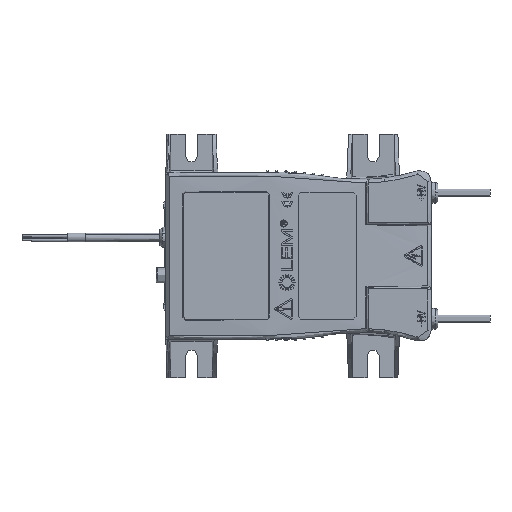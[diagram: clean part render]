
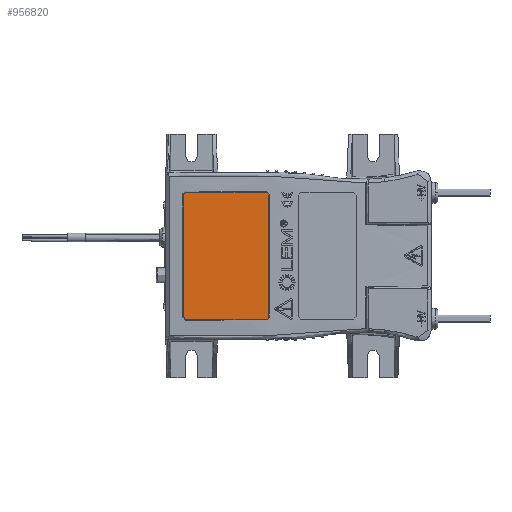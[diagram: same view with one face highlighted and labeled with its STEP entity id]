
A CAD part, top view. The second image highlights one B-rep face of the part: STEP entity #956820.
In plain terms, the highlighted planar face has unit normal (0, 0, 1).
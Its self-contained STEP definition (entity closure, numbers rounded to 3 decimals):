
#955820=CARTESIAN_POINT('',(10.871,-13.194,
50.784));
#955830=VERTEX_POINT('',#955820);
#955860=CARTESIAN_POINT('',(10.871,23.97,
50.784));
#955870=DIRECTION('',(0.,-1.,0.));
#955880=VECTOR('',#955870,1.);
#955890=LINE('',#955860,#955880);
#955900=CARTESIAN_POINT('',(10.871,53.743,
50.784));
#955910=VERTEX_POINT('',#955900);
#955920=EDGE_CURVE('',#955910,#955830,#955890,.T.);
#956080=CARTESIAN_POINT('',(9.393,-14.671,
50.784));
#956090=VERTEX_POINT('',#956080);
#956120=CARTESIAN_POINT('',(9.347,-13.148,
50.784));
#956130=DIRECTION('',(0.,0.,1.));
#956140=DIRECTION('',(-0.707,0.707,0.));
#956150=AXIS2_PLACEMENT_3D('',#956120,#956130,#956140);
#956160=ELLIPSE('',#956150,1.546,1.5);
#956170=EDGE_CURVE('',#956090,#955830,#956160,.T.);
#956240=CARTESIAN_POINT('',(63.833,85.765,
50.784));
#956250=DIRECTION('',(0.,0.,1.));
#956260=DIRECTION('',(1.,0.,0.));
#956270=AXIS2_PLACEMENT_3D('',#956240,#956250,#956260);
#956280=PLANE('',#956270);
#956290=CARTESIAN_POINT('',(-34.358,53.697,
50.784));
#956300=DIRECTION('',(0.,0.,-1.));
#956310=DIRECTION('',(0.707,-0.707,0.));
#956320=AXIS2_PLACEMENT_3D('',#956290,#956300,#956310);
#956330=ELLIPSE('',#956320,1.546,1.5);
#956340=CARTESIAN_POINT('',(-35.881,53.743,
50.784));
#956350=VERTEX_POINT('',#956340);
#956360=CARTESIAN_POINT('',(-34.404,55.22,
50.784));
#956370=VERTEX_POINT('',#956360);
#956380=EDGE_CURVE('',#956350,#956370,#956330,.T.);
#956390=ORIENTED_EDGE('',*,*,#956380,.F.);
#956400=CARTESIAN_POINT('',(98.917,55.22,
50.784));
#956410=DIRECTION('',(1.,0.,0.));
#956420=VECTOR('',#956410,1.);
#956430=LINE('',#956400,#956420);
#956440=CARTESIAN_POINT('',(9.393,55.22,
50.784));
#956450=VERTEX_POINT('',#956440);
#956460=EDGE_CURVE('',#956370,#956450,#956430,.T.);
#956470=ORIENTED_EDGE('',*,*,#956460,.F.);
#956480=CARTESIAN_POINT('',(9.347,53.697,
50.784));
#956490=DIRECTION('',(0.,0.,-1.));
#956500=DIRECTION('',(-0.707,-0.707,0.));
#956510=AXIS2_PLACEMENT_3D('',#956480,#956490,#956500);
#956520=ELLIPSE('',#956510,1.546,1.5);
#956530=EDGE_CURVE('',#956450,#955910,#956520,.T.);
#956540=ORIENTED_EDGE('',*,*,#956530,.F.);
#956550=ORIENTED_EDGE('',*,*,#955920,.F.);
#956560=ORIENTED_EDGE('',*,*,#956170,.T.);
#956570=CARTESIAN_POINT('',(98.917,-14.671,
50.784));
#956580=DIRECTION('',(1.,0.,0.));
#956590=VECTOR('',#956580,1.);
#956600=LINE('',#956570,#956590);
#956610=CARTESIAN_POINT('',(-34.404,-14.671,
50.784));
#956620=VERTEX_POINT('',#956610);
#956630=EDGE_CURVE('',#956620,#956090,#956600,.T.);
#956640=ORIENTED_EDGE('',*,*,#956630,.T.);
#956650=CARTESIAN_POINT('',(-34.358,-13.148,
50.784));
#956660=DIRECTION('',(0.,0.,1.));
#956670=DIRECTION('',(0.707,0.707,0.));
#956680=AXIS2_PLACEMENT_3D('',#956650,#956660,#956670);
#956690=ELLIPSE('',#956680,1.546,1.5);
#956700=CARTESIAN_POINT('',(-35.881,-13.194,
50.784));
#956710=VERTEX_POINT('',#956700);
#956720=EDGE_CURVE('',#956710,#956620,#956690,.T.);
#956730=ORIENTED_EDGE('',*,*,#956720,.T.);
#956740=CARTESIAN_POINT('',(-35.881,23.97,
50.784));
#956750=DIRECTION('',(0.,1.,0.));
#956760=VECTOR('',#956750,1.);
#956770=LINE('',#956740,#956760);
#956780=EDGE_CURVE('',#956710,#956350,#956770,.T.);
#956790=ORIENTED_EDGE('',*,*,#956780,.F.);
#956800=EDGE_LOOP('',(#956790,#956730,#956640,#956560,#956550,#956540,
#956470,#956390));
#956810=FACE_OUTER_BOUND('',#956800,.T.);
#956820=ADVANCED_FACE('',(#956810),#956280,.T.);
